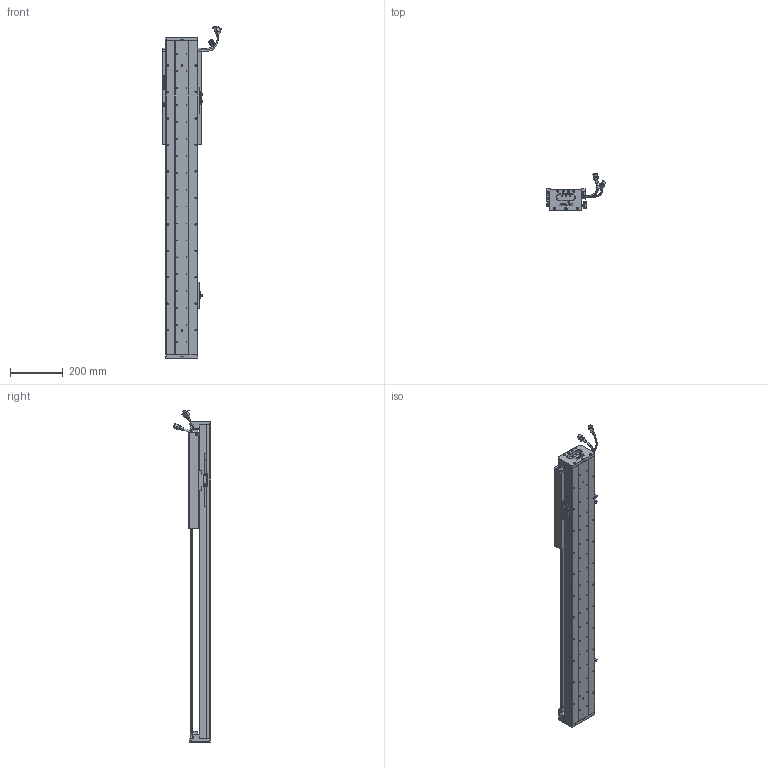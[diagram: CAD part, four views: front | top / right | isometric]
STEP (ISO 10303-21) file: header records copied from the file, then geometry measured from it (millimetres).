
FILE_DESCRIPTION (( 'STEP AP203' ), '1' );
FILE_NAME ('Z5-RY120D-1-L500-B-K.SLDASM_0750.step', '2021-05-17T06:21:44', ( '盈信电脑' ), ( '东莞市道滘镇水果街19号' ), 'SwSTEP 2.0', 'SolidWorks 2016', '' );
FILE_SCHEMA (( 'CONFIG_CONTROL_DESIGN' ));
Length unit declared in the file: millimetre
Products named in the file (37): 覜茼ん672; SEAL-Part-1; RY100FB-遵嫖萇覜茼え; SCREW-M1.6-1; SEAL; SCREW-M1.7; 672嫖萇羲壽假蚾釱; SCALE-Part-2; 120-Z-臏賑輸盄裔(21遴); HARNESS-Part-2; SCREW-M1.7-1; Z5-RY120-500-倰第菁釱_0750; COVER-Part-1; SCREW-M1.6-3; Z-120詩湍傷裔啣; SCREW-M1.6; Z5-RY120-L500詩湍100mm遵_0750; Z5-RY120铝滑块（21款）; Z-RY120D詩湍狟揤裔; PSLH080_PSLF2; HARNESS; 140雄赽晤鎢ん堤盄; LABEL-Part-1; SCALE; Z-RY120D詩湍奻揤裔; PBU_SHEET; COVER; Z5-RY120D-1-L500-B-K.SLDASM_0750; 080黍杅芛假蚾釱21遴; 140蚥薯蝶輸; LABEL; HOLDER0; SCREW-M1.6-2; HARNESS-Part-1; SHIELDPLATE; SCALE-Part-1; 榋妏寠巭燃_暯_M2_2
Assembly tree (43 placements, depth 4):
  Z5-RY120D-1-L500-B-K.SLDASM_0750
    Z5-RY120-500-倰第菁釱_0750
    覜茼ん672  x3
    672嫖萇羲壽假蚾釱  x2
    Z5-RY120铝滑块（21款）
    PSLH080_PSLF2
      SCALE
        SCALE-Part-1
        SCALE-Part-2
      HARNESS
        HARNESS-Part-1
        HARNESS-Part-2
      LABEL
        LABEL-Part-1
      COVER
        COVER-Part-1
      SEAL
        SEAL-Part-1
      榋妏寠巭燃_暯_M2_2
      SHIELDPLATE
      SCREW-M1.7
      SCREW-M1.7-1
      PBU_SHEET
      SCREW-M1.6
      SCREW-M1.6-1
      SCREW-M1.6-2
      SCREW-M1.6-3
      HOLDER0
    080黍杅芛假蚾釱21遴
    120-Z-臏賑輸盄裔(21遴)
    140雄赽晤鎢ん堤盄
    140蚥薯蝶輸  x2
    RY100FB-遵嫖萇覜茼え
    Z-120詩湍傷裔啣  x2
    Z-RY120D詩湍奻揤裔  x2
    Z-RY120D詩湍狟揤裔  x2
    Z5-RY120-L500詩湍100mm遵_0750
Bounding box: 222.87 x 140.94 x 1254 mm (x, y, z)
Volume: 3762333.8 mm3; surface area: 1204762.6 mm2
Topology: 38 solids, 38 shells, 2929 faces, 7935 edges, 5012 vertices
Faces by surface type: cylinder 1379, plane 1138, cone 290, torus 69, bspline 53
Entity records: 88896 total; most frequent: CARTESIAN_POINT 23805, ORIENTED_EDGE 12814, DIRECTION 12613, EDGE_CURVE 6407, AXIS2_PLACEMENT_3D 4646, VERTEX_POINT 4132, VECTOR 3321, LINE 3321
